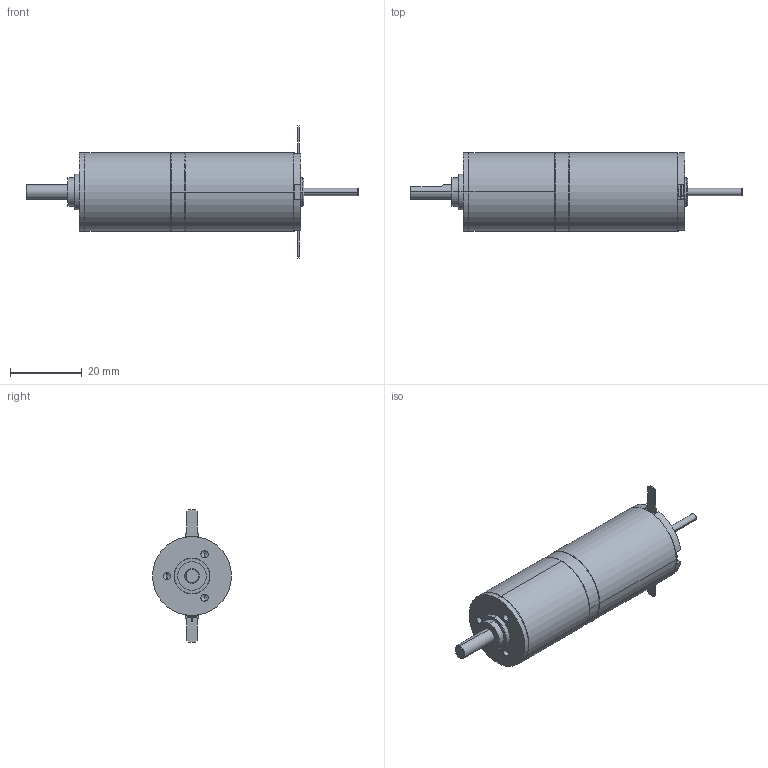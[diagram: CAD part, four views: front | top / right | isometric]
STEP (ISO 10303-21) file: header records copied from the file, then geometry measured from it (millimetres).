
FILE_DESCRIPTION (( 'STEP AP214' ), '1' );
FILE_NAME ('DCX22S_+_GP022C-1ETAGE.STEP', '2013-12-17T09:11:39', ( '' ), ( '' ), 'SwSTEP 2.0', 'SolidWorks 2013', '' );
FILE_SCHEMA (( 'AUTOMOTIVE_DESIGN' ));
Length unit declared in the file: millimetre
Products named in the file (3): GP022C_Etage 1; DCX22S_+_GP022C-1ETAGE; DCX22S GB KL
Assembly tree (2 placements, depth 2):
  DCX22S_+_GP022C-1ETAGE
    GP022C_Etage 1
    DCX22S GB KL
Bounding box: 92.6 x 22 x 36.9 mm (x, y, z)
Volume: 7099.4 mm3; surface area: 8329.8 mm2
Topology: 1 solids, 52 shells, 300 faces, 1041 edges, 773 vertices
Faces by surface type: plane 102, cylinder 100, cone 89, bspline 9
Entity records: 14873 total; most frequent: CARTESIAN_POINT 2688, DIRECTION 2088, ORIENTED_EDGE 1531, EDGE_CURVE 1035, AXIS2_PLACEMENT_3D 793, VERTEX_POINT 773, LINE 502, VECTOR 502
